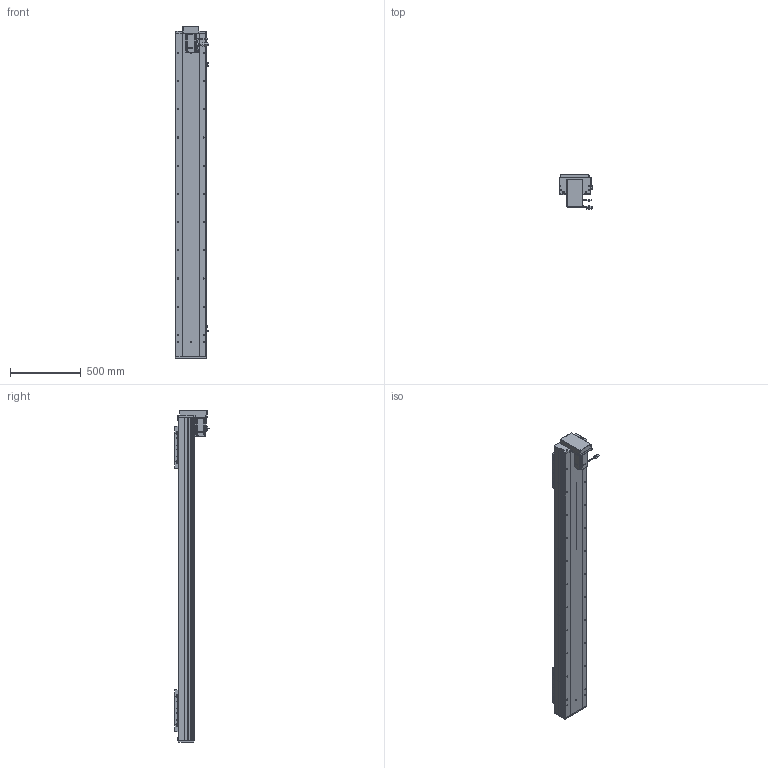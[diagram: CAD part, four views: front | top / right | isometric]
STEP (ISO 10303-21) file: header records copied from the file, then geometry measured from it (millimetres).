
FILE_DESCRIPTION (( 'STEP AP203' ), '1' );
FILE_NAME ('RY220F-L2525-800-BK-邧嶺.SLDASM_1850.step', '2022-08-06T08:08:33', ( '' ), ( '' ), 'SwSTEP 2.0', 'SolidWorks 2016', '' );
FILE_SCHEMA (( 'CONFIG_CONTROL_DESIGN' ));
Length unit declared in the file: millimetre
Products named in the file (15): RY220F-詩湍揤踡輸; RY220狟殏萇儂欶; RY220F-L2525-800-BK-邧嶺.SLDASM_1850; RY220F綴裔啣; RY220F-672覜茼んえ; 覜茼ん672; RY220狟殏萇儂假蚾啣; RY220F-祥凄詩湍-蛌殏-800_1850; RY220F臏賑釱25-32佪裝; 怢湛750W_ECMA-CX0807ES; RY220F-蛌殏奻裔啣-800_1850; RY220F蛌殏菁釱-800-邧嶺_1850; 侐源滅袉蝶; RY220F-滅鳥奻裔; 滅袉蝶18-24
Assembly tree (24 placements, depth 2):
  RY220F-L2525-800-BK-邧嶺.SLDASM_1850
    RY220F蛌殏菁釱-800-邧嶺_1850
    RY220F-蛌殏奻裔啣-800_1850  x2
    怢湛750W_ECMA-CX0807ES
    RY220F臏賑釱25-32佪裝  x2
    RY220F-滅鳥奻裔  x2
    滅袉蝶18-24  x3
    RY220F綴裔啣
    RY220F-祥凄詩湍-蛌殏-800_1850
    RY220F-詩湍揤踡輸  x2
    覜茼ん672  x3
    RY220F-672覜茼んえ  x2
    侐源滅袉蝶  x2
    RY220狟殏萇儂假蚾啣
    RY220狟殏萇儂欶
Bounding box: 237.27 x 247.24 x 2353 mm (x, y, z)
Volume: 20208473.5 mm3; surface area: 5331129 mm2
Topology: 25 solids, 25 shells, 2903 faces, 7870 edges, 4837 vertices
Faces by surface type: cylinder 1306, plane 1062, cone 464, bspline 45, sphere 16, torus 10
Entity records: 72313 total; most frequent: CARTESIAN_POINT 19255, ORIENTED_EDGE 10682, DIRECTION 10505, EDGE_CURVE 5341, AXIS2_PLACEMENT_3D 3754, VERTEX_POINT 3453, LINE 2997, VECTOR 2997
